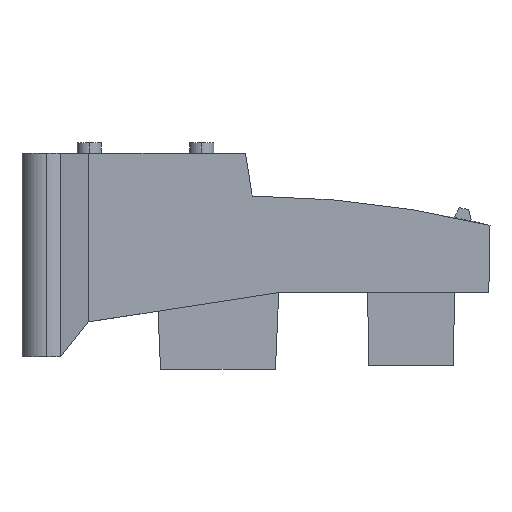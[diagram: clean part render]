
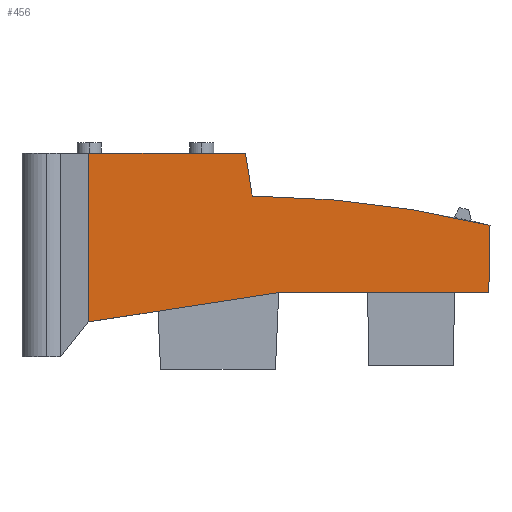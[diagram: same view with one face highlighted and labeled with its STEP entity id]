
A CAD part, left-side view. The second image highlights one B-rep face of the part: STEP entity #456.
In plain terms, the highlighted planar face has unit normal (-1, 0, 0).
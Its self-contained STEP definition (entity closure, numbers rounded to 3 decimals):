
#4 = CARTESIAN_POINT ( 'NONE',  ( -7., 115., 10. ) ) ;
#5 = CARTESIAN_POINT ( 'NONE',  ( -7., 115., 58. ) ) ;
#6 = DIRECTION ( 'NONE',  ( 0., 0., -1. ) ) ;
#7 = CARTESIAN_POINT ( 'NONE',  ( -7., 71.024, -254.165 ) ) ;
#8 = AXIS2_PLACEMENT_3D ( 'NONE', #125, #128, #129 ) ;
#82 = EDGE_CURVE ( 'NONE', #671, #92, #1120, .T. ) ;
#83 = EDGE_CURVE ( 'NONE', #1398, #1369, #1127, .T. ) ;
#84 = EDGE_CURVE ( 'NONE', #1395, #1398, #1133, .T. ) ;
#85 = EDGE_CURVE ( 'NONE', #92, #487, #1118, .T. ) ;
#92 = VERTEX_POINT ( 'NONE', #4 ) ;
#125 = CARTESIAN_POINT ( 'NONE',  ( -7., 0., 58. ) ) ;
#126 = PLANE ( 'NONE',  #8 ) ;
#128 = DIRECTION ( 'NONE',  ( 1., 0., 0. ) ) ;
#129 = DIRECTION ( 'NONE',  ( 0., 0., -1. ) ) ;
#154 = CARTESIAN_POINT ( 'NONE',  ( -7., 61.2, 18.291 ) ) ;
#155 = DIRECTION ( 'NONE',  ( 0., -1., 0. ) ) ;
#167 = CARTESIAN_POINT ( 'NONE',  ( -7., 70.36, 58. ) ) ;
#172 = CARTESIAN_POINT ( 'NONE',  ( -7., 0.75, 37.488 ) ) ;
#173 = CARTESIAN_POINT ( 'NONE',  ( -7., 68.464, 45.824 ) ) ;
#174 = CARTESIAN_POINT ( 'NONE',  ( -7., 1.085, 18.291 ) ) ;
#327 = ORIENTED_EDGE ( 'NONE', *, *, #84, .T. ) ;
#328 = ORIENTED_EDGE ( 'NONE', *, *, #83, .T. ) ;
#427 = CARTESIAN_POINT ( 'NONE',  ( -7., 61.2, 18.291 ) ) ;
#456 = ADVANCED_FACE ( 'NONE', ( #1204 ), #126, .F. ) ;
#487 = VERTEX_POINT ( 'NONE', #427 ) ;
#604 = ORIENTED_EDGE ( 'NONE', *, *, #1510, .F. ) ;
#665 = DIRECTION ( 'NONE',  ( 0., 0.154, 0.988 ) ) ;
#668 = CARTESIAN_POINT ( 'NONE',  ( -7., 70.36, 58. ) ) ;
#671 = VERTEX_POINT ( 'NONE', #674 ) ;
#674 = CARTESIAN_POINT ( 'NONE',  ( -7., 115., 58. ) ) ;
#709 = CARTESIAN_POINT ( 'NONE',  ( -7., 115., 10. ) ) ;
#710 = DIRECTION ( 'NONE',  ( 0., -0.988, 0.152 ) ) ;
#735 = VECTOR ( 'NONE', #1454, 1000. ) ;
#796 = LINE ( 'NONE', #1021, #812 ) ;
#812 = VECTOR ( 'NONE', #1022, 1000. ) ;
#816 = LINE ( 'NONE', #154, #817 ) ;
#817 = VECTOR ( 'NONE', #155, 1000. ) ;
#823 = LINE ( 'NONE', #1453, #735 ) ;
#1021 = CARTESIAN_POINT ( 'NONE',  ( -7., 1.085, 18.291 ) ) ;
#1022 = DIRECTION ( 'NONE',  ( 0., -0.017, 1. ) ) ;
#1056 = EDGE_LOOP ( 'NONE', ( #327, #328, #604, #1280, #1281, #1420, #1421 ) ) ;
#1118 = LINE ( 'NONE', #709, #1126 ) ;
#1120 = LINE ( 'NONE', #5, #1128 ) ;
#1126 = VECTOR ( 'NONE', #710, 1000. ) ;
#1127 = LINE ( 'NONE', #668, #1129 ) ;
#1128 = VECTOR ( 'NONE', #6, 1000. ) ;
#1129 = VECTOR ( 'NONE', #665, 1000. ) ;
#1133 = CIRCLE ( 'NONE', #1352, 300. ) ;
#1204 = FACE_OUTER_BOUND ( 'NONE', #1056, .T. ) ;
#1280 = ORIENTED_EDGE ( 'NONE', *, *, #82, .T. ) ;
#1281 = ORIENTED_EDGE ( 'NONE', *, *, #85, .T. ) ;
#1346 = EDGE_CURVE ( 'NONE', #1424, #1395, #796, .T. ) ;
#1347 = EDGE_CURVE ( 'NONE', #487, #1424, #816, .T. ) ;
#1352 = AXIS2_PLACEMENT_3D ( 'NONE', #7, #1445, #1446 ) ;
#1369 = VERTEX_POINT ( 'NONE', #167 ) ;
#1395 = VERTEX_POINT ( 'NONE', #172 ) ;
#1398 = VERTEX_POINT ( 'NONE', #173 ) ;
#1420 = ORIENTED_EDGE ( 'NONE', *, *, #1347, .T. ) ;
#1421 = ORIENTED_EDGE ( 'NONE', *, *, #1346, .T. ) ;
#1424 = VERTEX_POINT ( 'NONE', #174 ) ;
#1445 = DIRECTION ( 'NONE',  ( -1., 0., 0. ) ) ;
#1446 = DIRECTION ( 'NONE',  ( 0., 0., -1. ) ) ;
#1453 = CARTESIAN_POINT ( 'NONE',  ( -7., 0., 58. ) ) ;
#1454 = DIRECTION ( 'NONE',  ( 0., -1., 0. ) ) ;
#1510 = EDGE_CURVE ( 'NONE', #671, #1369, #823, .T. ) ;
